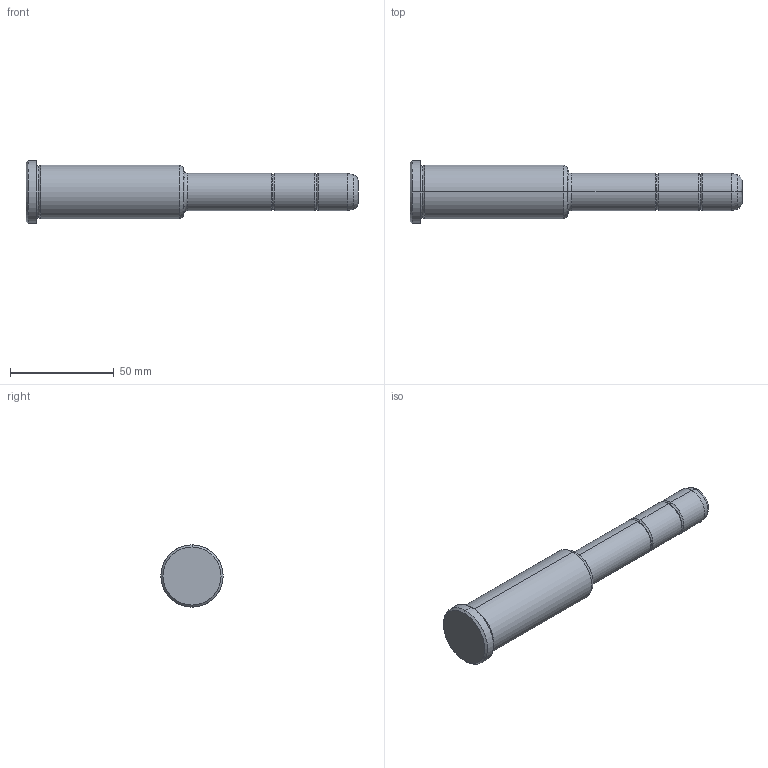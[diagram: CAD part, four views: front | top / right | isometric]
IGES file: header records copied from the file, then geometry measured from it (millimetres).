
Start section: START RECORD GO HERE.
Global section: file name: 351-18X76X160.igs; native system: DASSAULT SYSTEMES CATIA V5 R20 - www.3ds.com; preprocessor: CATIA Version 5 Release 20 ; author: Utente; organization: NB04-ASUS; date: 20210827.131734; units: millimetre
Bounding box: 160 x 30 x 30 mm (x, y, z)
Surface area: 12204.1 mm2 (no closed solid volume)
Topology: 0 solids, 0 shells, 36 faces, 204 edges, 204 vertices
Faces by surface type: revolution 32, plane 4
